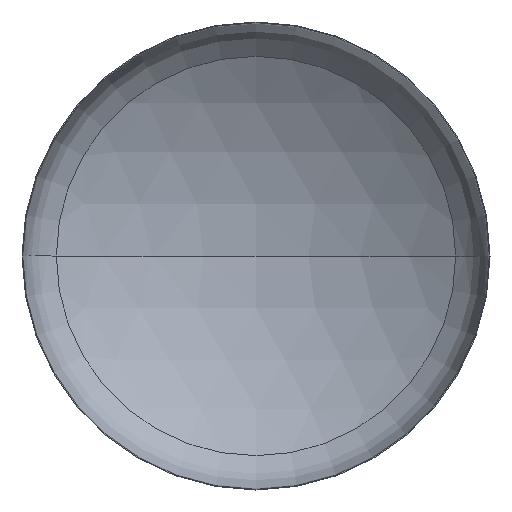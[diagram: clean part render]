
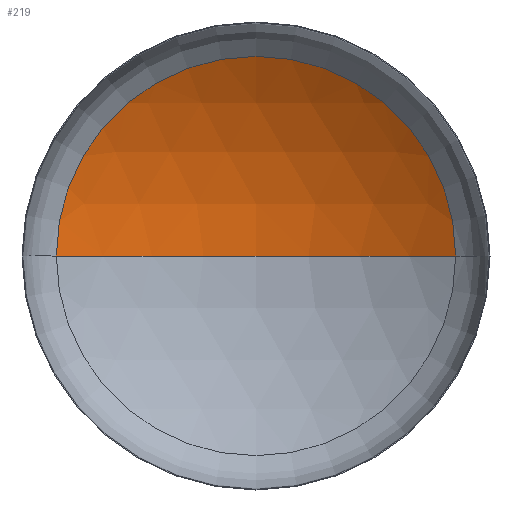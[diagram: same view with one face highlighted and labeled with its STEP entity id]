
A CAD part, front view. The second image highlights one B-rep face of the part: STEP entity #219.
In plain terms, the highlighted spherical face has radius 2080 mm.
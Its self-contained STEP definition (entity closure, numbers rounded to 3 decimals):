
#8 = ORIENTED_EDGE ( 'NONE', *, *, #160, .F. ) ;
#11 = DIRECTION ( 'NONE',  ( 1., 0., 0. ) ) ;
#26 = AXIS2_PLACEMENT_3D ( 'NONE', #55, #273, #80 ) ;
#30 = EDGE_LOOP ( 'NONE', ( #8, #120, #68 ) ) ;
#41 = AXIS2_PLACEMENT_3D ( 'NONE', #179, #193, #196 ) ;
#46 = AXIS2_PLACEMENT_3D ( 'NONE', #211, #151, #296 ) ;
#51 = AXIS2_PLACEMENT_3D ( 'NONE', #393, #254, #11 ) ;
#55 = CARTESIAN_POINT ( 'NONE',  ( 0., -1401.121, 0. ) ) ;
#65 = VERTEX_POINT ( 'NONE', #225 ) ;
#68 = ORIENTED_EDGE ( 'NONE', *, *, #137, .T. ) ;
#80 = DIRECTION ( 'NONE',  ( -1., 0., 0. ) ) ;
#84 = VERTEX_POINT ( 'NONE', #389 ) ;
#107 = VERTEX_POINT ( 'NONE', #311 ) ;
#120 = ORIENTED_EDGE ( 'NONE', *, *, #148, .T. ) ;
#137 = EDGE_CURVE ( 'NONE', #84, #65, #236, .T. ) ;
#148 = EDGE_CURVE ( 'NONE', #107, #84, #357, .T. ) ;
#151 = DIRECTION ( 'NONE',  ( 0., 0., -1. ) ) ;
#160 = EDGE_CURVE ( 'NONE', #107, #65, #171, .T. ) ;
#171 = CIRCLE ( 'NONE', #41, 2080. ) ;
#179 = CARTESIAN_POINT ( 'NONE',  ( 0., -1401.121, 0. ) ) ;
#193 = DIRECTION ( 'NONE',  ( 0., 0., 1. ) ) ;
#196 = DIRECTION ( 'NONE',  ( 1., 0., 0. ) ) ;
#211 = CARTESIAN_POINT ( 'NONE',  ( 0., -1401.121, 0. ) ) ;
#219 = ADVANCED_FACE ( 'NONE', ( #283 ), #404, .F. ) ;
#225 = CARTESIAN_POINT ( 'NONE',  ( -1109.333, 358.362, 0. ) ) ;
#236 = CIRCLE ( 'NONE', #51, 1109.333 ) ;
#254 = DIRECTION ( 'NONE',  ( 0., -1., 0. ) ) ;
#273 = DIRECTION ( 'NONE',  ( 0., 0., -1. ) ) ;
#283 = FACE_OUTER_BOUND ( 'NONE', #30, .T. ) ;
#296 = DIRECTION ( 'NONE',  ( -1., 0., 0. ) ) ;
#311 = CARTESIAN_POINT ( 'NONE',  ( 0., 678.879, 0. ) ) ;
#357 = CIRCLE ( 'NONE', #46, 2080. ) ;
#389 = CARTESIAN_POINT ( 'NONE',  ( 1109.333, 358.362, 0. ) ) ;
#393 = CARTESIAN_POINT ( 'NONE',  ( 0., 358.362, 0. ) ) ;
#404 = SPHERICAL_SURFACE ( 'NONE', #26, 2080. ) ;
